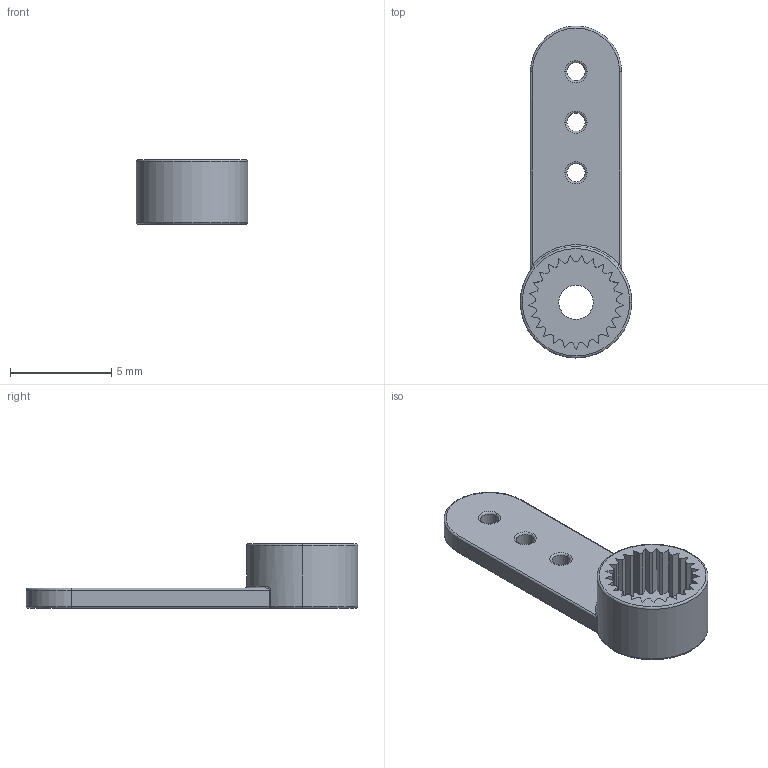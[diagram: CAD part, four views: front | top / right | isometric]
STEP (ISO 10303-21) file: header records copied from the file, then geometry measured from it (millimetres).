
FILE_DESCRIPTION (( 'STEP AP203' ), '1' );
FILE_NAME ('Micro sized Servo Mount - x4_Simple.step', '2015-09-06T16:23:03', ( '' ), ( '' ), 'SwSTEP 2.0', 'SolidWorks 2015', '' );
FILE_SCHEMA (( 'CONFIG_CONTROL_DESIGN' ));
Length unit declared in the file: millimetre
Products named in the file (1): Micro sized Servo Mount - x4_Simple
Bounding box: 5.5 x 16.4 x 3.2 mm (x, y, z)
Volume: 83.4 mm3; surface area: 279.5 mm2
Topology: 1 solids, 1 shells, 127 faces, 339 edges, 216 vertices
Faces by surface type: plane 57, cylinder 44, torus 24, bspline 2
Entity records: 4122 total; most frequent: CARTESIAN_POINT 761, DIRECTION 721, ORIENTED_EDGE 678, EDGE_CURVE 339, AXIS2_PLACEMENT_3D 260, VERTEX_POINT 216, LINE 201, VECTOR 201
